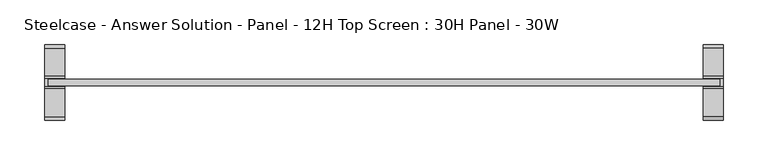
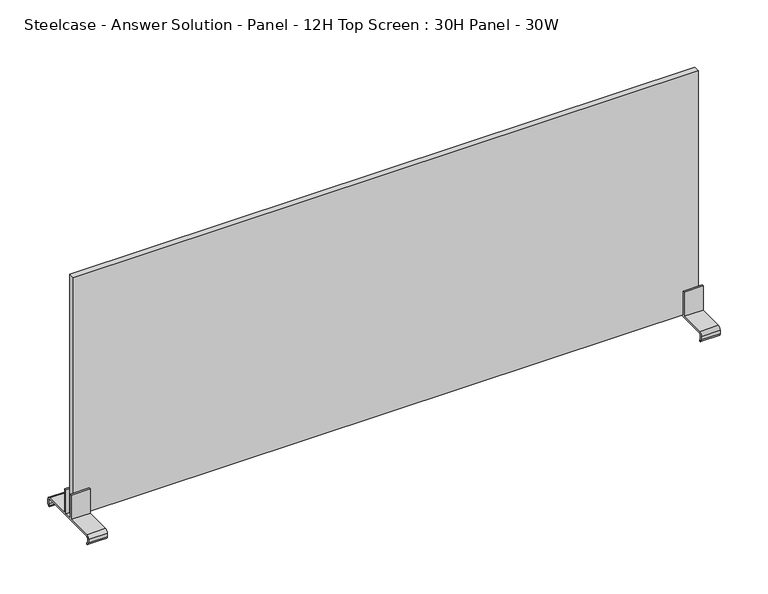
"""IFC4 building model written with IfcOpenShell, lengths in millimetres: furniture geometry, Steelcase - Answer Solution - Panel - 12H Top Screen : 30H Panel - 30W."""

import ifcopenshell
import ifcopenshell.guid

model = None  # the IFC model being written
_history = None  # IfcOwnerHistory: only IFC2X3 demands one
_inside = {}  # id of a spatial element -> (the spatial element, [elements in it])
_under = {}  # id of a project, library or spatial element -> (it, [spatial elements below it])
_declared = {}  # id of a project -> (the project, [libraries it declares])
_typed = {}  # id of a type object -> (the type object, [elements of that type])
_made_of = {}  # id of a material, layer set ... -> (it, [elements and type objects made of it])


def new_model(schema):
    """Start an empty IFC model of exactly this schema.

    Asked for "IFC4X3", IfcOpenShell would pick the latest addendum, in which some entities
    have other attributes; the version numbers below select the first issue.
    IFC2X3 requires an IfcOwnerHistory on every rooted entity: one is made here for all.
    """
    global model, _history
    if schema == "IFC4X3":
        model = ifcopenshell.file(schema_version=(4, 3, 0, 0))
    else:
        model = ifcopenshell.file(schema=schema)
    _inside.clear()
    _under.clear()
    _declared.clear()
    _typed.clear()
    _made_of.clear()
    _history = None
    if model.schema == "IFC2X3":
        org = make("IfcOrganization", Name="unknown")
        user = make(
            "IfcPersonAndOrganization",
            ThePerson=make("IfcPerson", FamilyName="unknown"),
            TheOrganization=org,
        )
        app = make(
            "IfcApplication",
            ApplicationDeveloper=org,
            Version="unknown",
            ApplicationFullName="unknown",
            ApplicationIdentifier="unknown",
        )
        _history = make(
            "IfcOwnerHistory",
            OwningUser=user,
            OwningApplication=app,
            ChangeAction="ADDED",
            CreationDate=0,
        )
    return model


def make(cls, **values):
    """One entity of the class cls with the attributes given. An attribute that is None is left unset."""
    return model.create_entity(
        cls, **{name: value for name, value in values.items() if value is not None}
    )


def rooted(cls, **values):
    """An entity with a GlobalId (a new one), such as an element, a storey or a relation."""
    return make(cls, GlobalId=ifcopenshell.guid.new(), OwnerHistory=_history, **values)


def si_unit(unit_type, name, prefix=None):
    """IfcSIUnit, for example si_unit("LENGTHUNIT", "METRE", prefix="MILLI")."""
    return make("IfcSIUnit", UnitType=unit_type, Prefix=prefix, Name=name)


def assignment(units):
    """IfcUnitAssignment: the units of a project."""
    return None if units is None else make("IfcUnitAssignment", Units=units)


def point(xyz):
    """IfcCartesianPoint."""
    return None if xyz is None else make("IfcCartesianPoint", Coordinates=xyz)


def direction(xyz):
    """IfcDirection."""
    return None if xyz is None else make("IfcDirection", DirectionRatios=xyz)


def frame(location, z_axis=None, x_axis=None):
    """IfcAxis2Placement3D, a coordinate frame: its origin and axes. An axis left out is left unset."""
    return make(
        "IfcAxis2Placement3D",
        Location=point(location),
        Axis=direction(z_axis),
        RefDirection=direction(x_axis),
    )


def frame_2d(location, x_axis=None):
    """IfcAxis2Placement2D, a coordinate frame in the plane: its origin and x axis."""
    return make(
        "IfcAxis2Placement2D", Location=point(location), RefDirection=direction(x_axis)
    )


def origin():
    """The frame at (0, 0, 0) with its axes left unset."""
    return frame((0.0, 0.0, 0.0))


def place(relative_to, where):
    """IfcLocalPlacement: puts the frame where relative to a parent placement (None: the world)."""
    return make(
        "IfcLocalPlacement", PlacementRelTo=relative_to, RelativePlacement=where
    )


def context(
    kind, dimensions, precision=None, world=None, true_north=None, identifier=None
):
    """IfcGeometricRepresentationContext, for example the 3D "Model" context."""
    return make(
        "IfcGeometricRepresentationContext",
        ContextIdentifier=identifier,
        ContextType=kind,
        CoordinateSpaceDimension=dimensions,
        Precision=precision,
        WorldCoordinateSystem=world,
        TrueNorth=true_north,
    )


def project(units=None, contexts=None):
    """IfcProject with its units and contexts."""
    return rooted(
        "IfcProject",
        Name="project",
        RepresentationContexts=contexts,
        UnitsInContext=assignment(units),
    )


def spatial(cls, under=None, at=None, **own):
    """A site, building, storey or space (cls), placed at a placement, below another one or the project."""
    s = rooted(cls, ObjectPlacement=at, **own)
    if under is not None:
        _under.setdefault(under.id(), (under, []))[1].append(s)
    return s


def polyline(points):
    """IfcPolyline through the points."""
    return make("IfcPolyline", Points=[point(p) for p in points])


def circle_curve(where, radius):
    """IfcCircle in the frame where."""
    return make("IfcCircle", Position=where, Radius=radius)


def trimmed(basis, trim1, trim2, sense, master):
    """IfcTrimmedCurve: the piece of a basis curve between two trims."""
    return make(
        "IfcTrimmedCurve",
        BasisCurve=basis,
        Trim1=trim1,
        Trim2=trim2,
        SenseAgreement=sense,
        MasterRepresentation=master,
    )


def segment(curve, same_sense, transition):
    """IfcCompositeCurveSegment."""
    return make(
        "IfcCompositeCurveSegment",
        Transition=transition,
        SameSense=same_sense,
        ParentCurve=curve,
    )


def composite_curve(segments, self_intersect=None):
    """IfcCompositeCurve: segments joined end to end."""
    return make("IfcCompositeCurve", Segments=segments, SelfIntersect=self_intersect)


def outline(outer, holes=None, kind="AREA"):
    """IfcArbitraryClosedProfileDef: a profile drawn as a closed curve; with holes, ...WithVoids."""
    if holes is None:
        return make("IfcArbitraryClosedProfileDef", ProfileType=kind, OuterCurve=outer)
    return make(
        "IfcArbitraryProfileDefWithVoids",
        ProfileType=kind,
        OuterCurve=outer,
        InnerCurves=holes,
    )


def extrude(swept, where, along, depth):
    """IfcExtrudedAreaSolid: the profile swept, set in the frame where, extruded along a direction by depth."""
    return make(
        "IfcExtrudedAreaSolid",
        SweptArea=swept,
        Position=where,
        ExtrudedDirection=direction(along),
        Depth=depth,
    )


def shape(context_of_items, identifier, shape_type, items):
    """IfcShapeRepresentation: the items that make up one representation, for example the "Body"."""
    return make(
        "IfcShapeRepresentation",
        ContextOfItems=context_of_items,
        RepresentationIdentifier=identifier,
        RepresentationType=shape_type,
        Items=items,
    )


def source(mapping_origin, context_of_items, identifier, shape_type, items):
    """IfcRepresentationMap: a shape defined once, which mapped items show again and again."""
    return make(
        "IfcRepresentationMap",
        MappingOrigin=mapping_origin,
        MappedRepresentation=shape(context_of_items, identifier, shape_type, items),
    )


def transform(
    local_origin,
    x_axis=None,
    y_axis=None,
    z_axis=None,
    scale=None,
    scale2=None,
    scale3=None,
    uniform=True,
):
    """IfcCartesianTransformationOperator3D, or its non-uniform kind. x_axis, y_axis, z_axis: its Axis1, 2, 3."""
    if uniform:
        return make(
            "IfcCartesianTransformationOperator3D",
            Axis1=direction(x_axis),
            Axis2=direction(y_axis),
            LocalOrigin=point(local_origin),
            Scale=scale,
            Axis3=direction(z_axis),
        )
    return make(
        "IfcCartesianTransformationOperator3DnonUniform",
        Axis1=direction(x_axis),
        Axis2=direction(y_axis),
        LocalOrigin=point(local_origin),
        Scale=scale,
        Axis3=direction(z_axis),
        Scale2=scale2,
        Scale3=scale3,
    )


def mapped(mapping_source, mapping_target):
    """IfcMappedItem: shows the shape of a source again, moved by a transform."""
    return make(
        "IfcMappedItem", MappingSource=mapping_source, MappingTarget=mapping_target
    )


def made_of(thing, what):
    """Note that an element or type object is made of a material, layer set ...; save() writes the relation."""
    if what is not None:
        _made_of.setdefault(what.id(), (what, []))[1].append(thing)
    return thing


def element(
    cls,
    number,
    at=None,
    inside=None,
    cuts=None,
    type_object=None,
    material=None,
    context=None,
    identifier="Body",
    shape_type=None,
    held_by="IfcProductDefinitionShape",
    body=None,
    shapes=None,
    **own,
):
    """One element of the class cls, such as IfcWall. Its Tag is "e" and its number.

    at: its placement. inside: the storey or other place that contains it. cuts: it is an
    opening in that element (IfcRelVoidsElement). A single representation is given by context,
    identifier, shape_type and body (its items); several are given by shapes. held_by: the class
    of the entity that holds the representations. save() writes the other relations.
    """
    e = rooted(cls, Tag="e%d" % number, ObjectPlacement=at, **own)
    if body is not None:
        shapes = [shape(context, identifier, shape_type, body)]
    if shapes is not None:
        e.Representation = make(held_by, Representations=shapes)
    if inside is not None:
        _inside.setdefault(inside.id(), (inside, []))[1].append(e)
    if cuts is not None:
        rooted(
            "IfcRelVoidsElement", RelatingBuildingElement=cuts, RelatedOpeningElement=e
        )
    if type_object is not None:
        _typed.setdefault(type_object.id(), (type_object, []))[1].append(e)
    return made_of(e, material)


def aggregate(whole, parts):
    """IfcRelAggregates: a whole, such as a stair, and the parts it consists of."""
    return rooted("IfcRelAggregates", RelatingObject=whole, RelatedObjects=parts)


def save(model, path):
    """Write the relations noted so far, then the file.

    IfcRelAggregates (storeys below a building ...), IfcRelContainedInSpatialStructure (elements
    in a storey), IfcRelDefinesByType, IfcRelAssociatesMaterial and IfcRelDeclares: one each for
    every whole, place, type object, material and project.
    """
    for whole, parts in _under.values():
        aggregate(whole, parts)
    for where, things in _inside.values():
        rooted(
            "IfcRelContainedInSpatialStructure",
            RelatedElements=things,
            RelatingStructure=where,
        )
    for kind, things in _typed.values():
        rooted("IfcRelDefinesByType", RelatedObjects=things, RelatingType=kind)
    for what, things in _made_of.values():
        rooted("IfcRelAssociatesMaterial", RelatedObjects=things, RelatingMaterial=what)
    for by, libraries in _declared.values():
        rooted("IfcRelDeclares", RelatingContext=by, RelatedDefinitions=libraries)
    model.write(path)


def steelcase_answer_solution_panel_12h_top_screen_30h_panel_30w_8a135b42(model_context):
    return source(origin(), model_context, "Body", "SweptSolid", [
        extrude(outline(polyline([(376.936, -3.683001), (-376.936, -3.683001), (-376.936, 3.683001), (376.936, 3.683001), (376.936, -3.683001)])), frame((0.0, 0.0, 770.3819981), z_axis=(0.0, 0.0, 1.0), x_axis=(1.0, 0.0, 0.0)), (0.0, 0.0, 1.0), 304.8),
        extrude(outline(composite_curve([segment(trimmed(circle_curve(frame_2d((38.5445, 766.445)), 1.905), [point((40.4495, 766.445))], [point((38.5445, 768.35))], True, "CARTESIAN"), True, "CONTINUOUS"), segment(polyline([(38.5445, 768.35), (-38.5445, 768.35)]), True, "CONTINUOUS"), segment(trimmed(circle_curve(frame_2d((-38.5445, 766.445)), 1.905), [point((-38.5445, 768.35))], [point((-40.4495, 766.445))], True, "CARTESIAN"), True, "CONTINUOUS"), segment(polyline([(-40.4495, 766.445), (-40.4495, 761.8341187)]), True, "CONTINUOUS"), segment(trimmed(circle_curve(frame_2d((-38.5445, 761.8341187)), 1.905), [point((-40.4495, 761.8341187))], [point((-38.6743328, 759.9335481))], True, "CARTESIAN"), True, "CONTINUOUS"), segment(polyline([(-38.6743328, 759.9335481), (-39.2392449, 758.3535566)]), True, "CONTINUOUS"), segment(trimmed(circle_curve(frame_2d((-38.5459934, 762.2284569)), 3.9364261), [point((-39.2392449, 758.3535566))], [point((-42.4824195, 762.2284569))], False, "CARTESIAN"), True, "CONTINUOUS"), segment(polyline([(-42.4824195, 762.2284569), (-42.4824195, 766.4452288)]), True, "CONTINUOUS"), segment(trimmed(circle_curve(frame_2d((-38.5459934, 766.4452288)), 3.9364261), [point((-42.4824195, 766.4452288))], [point((-38.5459934, 770.3816549))], False, "CARTESIAN"), True, "CONTINUOUS"), segment(polyline([(-38.5459934, 770.3816549), (-6.7310004, 770.3816549), (-6.7310004, 801.3699952), (-4.699, 801.3699952), (-4.699, 770.3819952), (4.699, 770.3819952), (4.699, 801.3700048), (6.7310004, 801.3700048), (6.7310004, 770.3816549), (38.5459934, 770.3816549)]), True, "CONTINUOUS"), segment(trimmed(circle_curve(frame_2d((38.5459934, 766.4452288)), 3.9364261), [point((38.5459934, 770.3816549))], [point((42.4824195, 766.4452288))], False, "CARTESIAN"), True, "CONTINUOUS"), segment(polyline([(42.4824195, 766.4452288), (42.4824195, 762.2284569)]), True, "CONTINUOUS"), segment(trimmed(circle_curve(frame_2d((38.5459934, 762.2284569)), 3.9364261), [point((42.4824195, 762.2284569))], [point((39.6631716, 758.4538889))], False, "CARTESIAN"), True, "CONTINUOUS"), segment(polyline([(39.6631716, 758.4538889), (39.1055128, 760.0135996)]), True, "CONTINUOUS"), segment(trimmed(circle_curve(frame_2d((38.5445, 761.8341187)), 1.905), [point((39.1055128, 760.0135996))], [point((40.4495, 761.8341187))], True, "CARTESIAN"), True, "CONTINUOUS"), segment(polyline([(40.4495, 761.8341187), (40.4495, 766.445)]), True, "CONTINUOUS")], self_intersect=False)), frame((358.394, 0.0, 0.0), z_axis=(1.0, 0.0, 0.0), x_axis=(0.0, 1.0, 0.0)), (0.0, 0.0, 1.0), 22.606),
        extrude(outline(composite_curve([segment(trimmed(circle_curve(frame_2d((38.5445, 766.445)), 1.905), [point((40.4495, 766.445))], [point((38.5445, 768.35))], True, "CARTESIAN"), True, "CONTINUOUS"), segment(polyline([(38.5445, 768.35), (-38.5445, 768.35)]), True, "CONTINUOUS"), segment(trimmed(circle_curve(frame_2d((-38.5445, 766.445)), 1.905), [point((-38.5445, 768.35))], [point((-40.4495, 766.445))], True, "CARTESIAN"), True, "CONTINUOUS"), segment(polyline([(-40.4495, 766.445), (-40.4495, 761.8341187)]), True, "CONTINUOUS"), segment(trimmed(circle_curve(frame_2d((-38.5445, 761.8341187)), 1.905), [point((-40.4495, 761.8341187))], [point((-38.6743328, 759.9335481))], True, "CARTESIAN"), True, "CONTINUOUS"), segment(polyline([(-38.6743328, 759.9335481), (-39.2392449, 758.3535566)]), True, "CONTINUOUS"), segment(trimmed(circle_curve(frame_2d((-38.5459934, 762.2284569)), 3.9364261), [point((-39.2392449, 758.3535566))], [point((-42.4824195, 762.2284569))], False, "CARTESIAN"), True, "CONTINUOUS"), segment(polyline([(-42.4824195, 762.2284569), (-42.4824195, 766.4452288)]), True, "CONTINUOUS"), segment(trimmed(circle_curve(frame_2d((-38.5459934, 766.4452288)), 3.9364261), [point((-42.4824195, 766.4452288))], [point((-38.5459934, 770.3816549))], False, "CARTESIAN"), True, "CONTINUOUS"), segment(polyline([(-38.5459934, 770.3816549), (-6.7310004, 770.3816549), (-6.7310004, 801.3699952), (-4.699, 801.3699952), (-4.699, 770.3819952), (4.699, 770.3819952), (4.699, 801.3700048), (6.7310004, 801.3700048), (6.7310004, 770.3816549), (38.5459934, 770.3816549)]), True, "CONTINUOUS"), segment(trimmed(circle_curve(frame_2d((38.5459934, 766.4452288)), 3.9364261), [point((38.5459934, 770.3816549))], [point((42.4824195, 766.4452288))], False, "CARTESIAN"), True, "CONTINUOUS"), segment(polyline([(42.4824195, 766.4452288), (42.4824195, 762.2284569)]), True, "CONTINUOUS"), segment(trimmed(circle_curve(frame_2d((38.5459934, 762.2284569)), 3.9364261), [point((42.4824195, 762.2284569))], [point((39.6631716, 758.4538889))], False, "CARTESIAN"), True, "CONTINUOUS"), segment(polyline([(39.6631716, 758.4538889), (39.1055128, 760.0135996)]), True, "CONTINUOUS"), segment(trimmed(circle_curve(frame_2d((38.5445, 761.8341187)), 1.905), [point((39.1055128, 760.0135996))], [point((40.4495, 761.8341187))], True, "CARTESIAN"), True, "CONTINUOUS"), segment(polyline([(40.4495, 761.8341187), (40.4495, 766.445)]), True, "CONTINUOUS")], self_intersect=False)), frame((-381.0, 0.0, 0.0), z_axis=(1.0, 0.0, 0.0), x_axis=(0.0, 1.0, 0.0)), (0.0, 0.0, 1.0), 22.606),
    ])


if __name__ == "__main__":
    model = new_model("IFC4")
    model_context = context("Model", 3, world=origin())
    ifc_project = project(units=[si_unit("LENGTHUNIT", "METRE", prefix="MILLI")], contexts=[model_context])
    site = spatial("IfcSite", under=ifc_project)
    building = spatial("IfcBuilding", under=site)
    placement = place(None, origin())
    steelcase_answer_solution_panel_12h_top_screen_30h_panel_30w_shape = steelcase_answer_solution_panel_12h_top_screen_30h_panel_30w_8a135b42(model_context)
    element("IfcFurniture", 1, ObjectType="Steelcase - Answer Solution - Panel - 12H Top Screen : 30H Panel - 30W", at=placement, inside=building, context=model_context, shape_type="MappedRepresentation", body=[
        mapped(steelcase_answer_solution_panel_12h_top_screen_30h_panel_30w_shape, transform((0.0, 0.0, 0.0), x_axis=(1.0, 0.0, 0.0), y_axis=(0.0, 1.0, 0.0), z_axis=(0.0, 0.0, 1.0))),
    ])
    save(model, "model.ifc")
